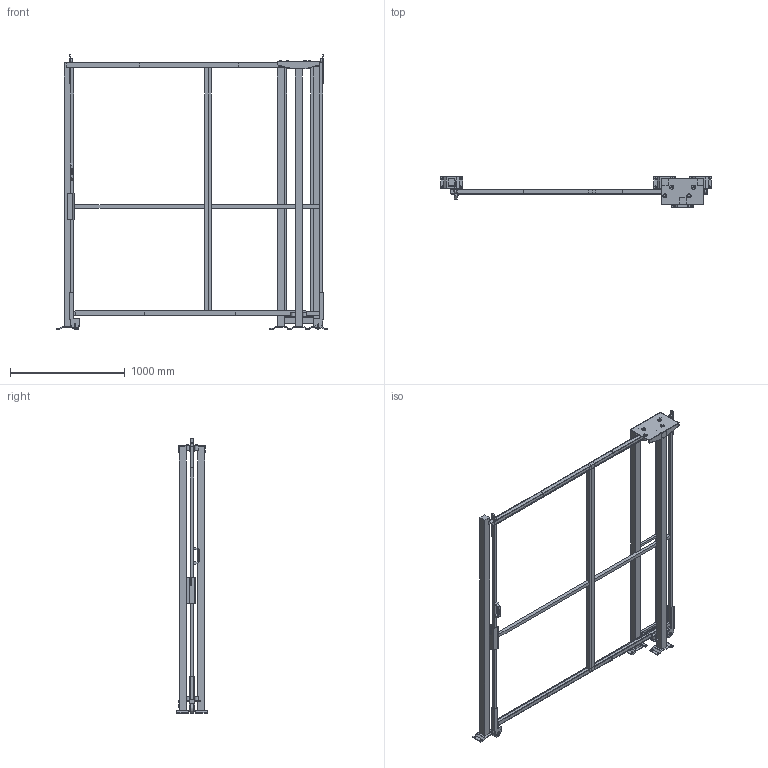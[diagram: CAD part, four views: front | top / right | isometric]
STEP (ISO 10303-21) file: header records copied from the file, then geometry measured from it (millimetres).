
FILE_DESCRIPTION(/* description */ (''),/* implementation_level */ '2;1');
FILE_NAME(/* name */ 'C:\SafeGuarding\ELABORATI\KLADKA_2025-03-20-08-35-24.stp',/* time_stamp */ '2025-03-20T08:35:28+01:00',/* author */ ('admin'),/* organization */ (''),/* preprocessor_version */ 'ST-DEVELOPER v18.1',/* originating_system */ 'AutoCAD Mechanical',/* authorisation */ '');
FILE_SCHEMA (('AUTOMOTIVE_DESIGN { 1 0 10303 214 3 1 1 }'));
Length unit declared in the file: millimetre
Products named in the file (5): Product; R_VFPA.REPE30.10002200; R_VFPA.REPE30.12002200; R_VFPA.REPE20.02502200; P_VFMA.V360SDU.2320
Assembly tree (7 placements, depth 2):
  Product
    R_VFPA.REPE30.10002200
    R_VFPA.REPE30.12002200
    R_VFPA.REPE20.02502200
    P_VFMA.V360SDU.2320  x4
Bounding box: 2362.03 x 264.11 x 2390.02 mm (x, y, z)
Volume: 52282054.2 mm3; surface area: 6823603.9 mm2
Topology: 60 solids, 71 shells, 549 faces, 1702 edges, 1715 vertices
Faces by surface type: plane 497, cylinder 50, sphere 2
Full cylindrical faces by diameter (mm): 9 x4, 11 x16, 13 x4, 30 x6, 36 x8, 80 x2
Entity records: 15923 total; most frequent: CARTESIAN_POINT 3428, DIRECTION 2414, ORIENTED_EDGE 2178, LINE 1184, VECTOR 1184, EDGE_CURVE 1138, VERTEX_POINT 798, AXIS2_PLACEMENT_3D 615
